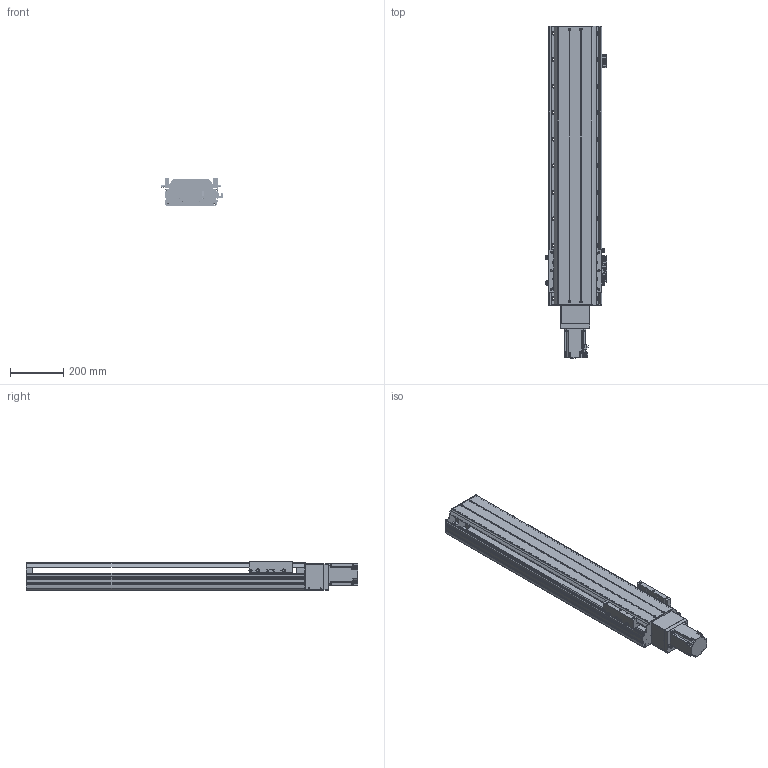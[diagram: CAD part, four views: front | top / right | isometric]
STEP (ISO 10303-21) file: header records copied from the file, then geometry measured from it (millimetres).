
FILE_DESCRIPTION(/* description */ ('MANUFACTURE'),/* implementation_level */ '2;1');
FILE_NAME(/* name */ '\\192.168.0.160\disk1\HAN SHIN Master\B-설계부문\C-표준\B-2024년\BC02-표준도면\+로봇 개선표준도면\표준 승인도 작업 폴더\3D\HG200\HG200직렬\HG200-S70-N-0800-R10.stp',/* time_stamp */ '2024-02-23T13:07:08+09:00',/* author */ ('User'),/* organization */ (''),/* preprocessor_version */ 'ST-DEVELOPER v18.1',/* originating_system */ 'Autodesk Inventor 2022',/* authorisation */ 'LIP');
FILE_SCHEMA (('AUTOMOTIVE_DESIGN { 1 0 10303 214 3 1 1 }'));
Products named in the file (19): HR200-S70-W0500-R10; HR200 S BASE-개선; HR180 FRONT BLOCK; HR180 FRONT BLOCK_1; HR200 FRONT COVER; HR120 STOPPER; HR200 SENSOR DOG; HR200 S UPCOVER; hsr_ftht_A-M6F_grease_nipple_joint; NIPPLE CAP(신규); SDWC-54C; HR200 FRONT COVER_1; HR200 TABLE (W,N); COUPLING COVER 400W-R1; hg-kr73_; HG200 S MOTOR PLATE-M; HG200 S MOTOR PLATE-B; SENSOR BRK(EE-SX674A); EE_SX674A
Assembly tree (31 placements, depth 2):
  HR200-S70-W0500-R10
    HR200 S BASE-개선
    HR180 FRONT BLOCK
    HR180 FRONT BLOCK_1
    HR200 FRONT COVER
    HR120 STOPPER  x2
    HR200 SENSOR DOG
    SENSOR BRK(EE-SX674A)  x3
    EE_SX674A  x3
    HR200 S UPCOVER
    NIPPLE CAP(신규)  x5
    hsr_ftht_A-M6F_grease_nipple_joint  x5
    SDWC-54C
    HR200 FRONT COVER_1
    HR200 TABLE (W,N)
    COUPLING COVER 400W-R1
    hg-kr73_
    HG200 S MOTOR PLATE-M
    HG200 S MOTOR PLATE-B
Bounding box: 231.46 x 1252 x 109 mm (x, y, z)
Volume: 7423625.8 mm3; surface area: 1936377.8 mm2
Topology: 31 solids, 49 shells, 2650 faces, 7206 edges, 4693 vertices
Faces by surface type: plane 1197, cylinder 966, cone 301, torus 122, sphere 40, bspline 24
Full cylindrical faces by diameter (mm): 2.459 x26, 3 x12, 3.242 x18, 3.3 x8, 3.5 x6, 4 x26, 4.134 x8, 4.2 x6, 4.5 x18, 4.917 x54, 5 x30, 5.34 x8, 5.35 x8, 5.4 x16, 5.5 x4, 5.6 x5, 5.9 x4, 6 x9, 6.5 x10, 6.6 x32, 6.647 x32, 7 x12, 7.6 x4, 8 x4, 8.5 x4, 9 x54, 9.85 x8, 10 x1, 11 x32, 14 x22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
Entity records: 71842 total; most frequent: CARTESIAN_POINT 15499, DIRECTION 11789, ORIENTED_EDGE 11200, EDGE_CURVE 5600, AXIS2_PLACEMENT_3D 4399, VERTEX_POINT 3721, LINE 2991, VECTOR 2991
